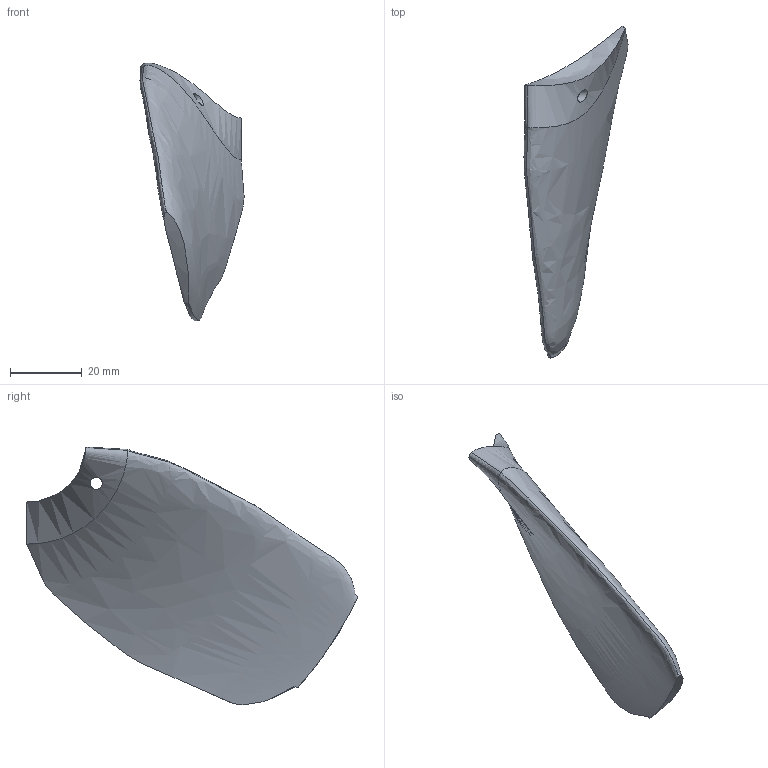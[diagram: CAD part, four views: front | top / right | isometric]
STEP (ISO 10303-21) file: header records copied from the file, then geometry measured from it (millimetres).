
FILE_DESCRIPTION(('Open CASCADE Model'),'2;1');
FILE_NAME('Open CASCADE Shape Model','2026-11-02T23:22:40',('Author'),( 'Open CASCADE'),'Open CASCADE STEP processor 7.9','Open CASCADE 7.9' ,'Unknown');
FILE_SCHEMA(('AUTOMOTIVE_DESIGN { 1 0 10303 214 1 1 1 1 }'));
Length unit declared in the file: millimetre
Products named in the file (1): Open CASCADE STEP translator 7.9 5
Bounding box: 29.12 x 92.75 x 72.04 mm (x, y, z)
Volume: 24705.6 mm3; surface area: 9961.1 mm2
Topology: 1 solids, 1 shells, 9 faces, 18 edges, 11 vertices
Faces by surface type: bspline 8, cylinder 1
Full cylindrical faces by diameter (mm): 3.4 x1
Entity records: 7280 total; most frequent: CARTESIAN_POINT 6975, ORIENTED_EDGE 36, PCURVE 36, DEFINITIONAL_REPRESENTATION 36, B_SPLINE_CURVE_WITH_KNOTS 30, DIRECTION 25, LINE 21, VECTOR 21
